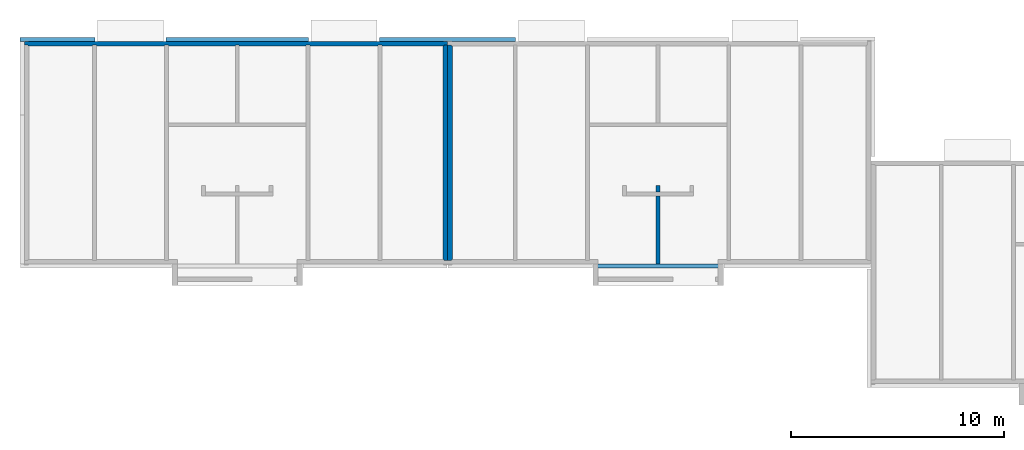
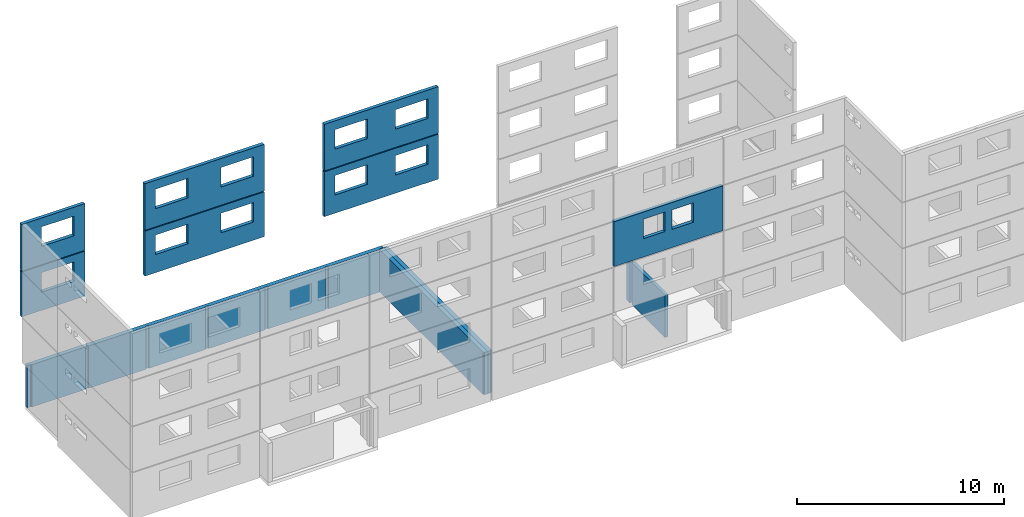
# One storey, part 10 of 15: 12 walls, 12 openings.
"""IFC2X3 building model written with IfcOpenShell, lengths in metres."""

import ifcopenshell
import ifcopenshell.guid

model = None  # the IFC model being written
_history = None  # IfcOwnerHistory: only IFC2X3 demands one
_inside = {}  # id of a spatial element -> (the spatial element, [elements in it])
_under = {}  # id of a project, library or spatial element -> (it, [spatial elements below it])
_declared = {}  # id of a project -> (the project, [libraries it declares])
_typed = {}  # id of a type object -> (the type object, [elements of that type])
_made_of = {}  # id of a material, layer set ... -> (it, [elements and type objects made of it])


def new_model(schema):
    """Start an empty IFC model of exactly this schema.

    Asked for "IFC4X3", IfcOpenShell would pick the latest addendum, in which some entities
    have other attributes; the version numbers below select the first issue.
    IFC2X3 requires an IfcOwnerHistory on every rooted entity: one is made here for all.
    """
    global model, _history
    if schema == "IFC4X3":
        model = ifcopenshell.file(schema_version=(4, 3, 0, 0))
    else:
        model = ifcopenshell.file(schema=schema)
    _inside.clear()
    _under.clear()
    _declared.clear()
    _typed.clear()
    _made_of.clear()
    _history = None
    if model.schema == "IFC2X3":
        org = make("IfcOrganization", Name="unknown")
        user = make(
            "IfcPersonAndOrganization",
            ThePerson=make("IfcPerson", FamilyName="unknown"),
            TheOrganization=org,
        )
        app = make(
            "IfcApplication",
            ApplicationDeveloper=org,
            Version="unknown",
            ApplicationFullName="unknown",
            ApplicationIdentifier="unknown",
        )
        _history = make(
            "IfcOwnerHistory",
            OwningUser=user,
            OwningApplication=app,
            ChangeAction="ADDED",
            CreationDate=0,
        )
    return model


def make(cls, **values):
    """One entity of the class cls with the attributes given. An attribute that is None is left unset."""
    return model.create_entity(
        cls, **{name: value for name, value in values.items() if value is not None}
    )


def rooted(cls, **values):
    """An entity with a GlobalId (a new one), such as an element, a storey or a relation."""
    return make(cls, GlobalId=ifcopenshell.guid.new(), OwnerHistory=_history, **values)


def si_unit(unit_type, name, prefix=None):
    """IfcSIUnit, for example si_unit("LENGTHUNIT", "METRE", prefix="MILLI")."""
    return make("IfcSIUnit", UnitType=unit_type, Prefix=prefix, Name=name)


def assignment(units):
    """IfcUnitAssignment: the units of a project."""
    return None if units is None else make("IfcUnitAssignment", Units=units)


def point(xyz):
    """IfcCartesianPoint."""
    return None if xyz is None else make("IfcCartesianPoint", Coordinates=xyz)


def direction(xyz):
    """IfcDirection."""
    return None if xyz is None else make("IfcDirection", DirectionRatios=xyz)


def frame(location, z_axis=None, x_axis=None):
    """IfcAxis2Placement3D, a coordinate frame: its origin and axes. An axis left out is left unset."""
    return make(
        "IfcAxis2Placement3D",
        Location=point(location),
        Axis=direction(z_axis),
        RefDirection=direction(x_axis),
    )


def origin():
    """The frame at (0, 0, 0) with its axes left unset."""
    return frame((0.0, 0.0, 0.0))


def place(relative_to, where):
    """IfcLocalPlacement: puts the frame where relative to a parent placement (None: the world)."""
    return make(
        "IfcLocalPlacement", PlacementRelTo=relative_to, RelativePlacement=where
    )


def context(
    kind, dimensions, precision=None, world=None, true_north=None, identifier=None
):
    """IfcGeometricRepresentationContext, for example the 3D "Model" context."""
    return make(
        "IfcGeometricRepresentationContext",
        ContextIdentifier=identifier,
        ContextType=kind,
        CoordinateSpaceDimension=dimensions,
        Precision=precision,
        WorldCoordinateSystem=world,
        TrueNorth=true_north,
    )


def project(units=None, contexts=None):
    """IfcProject with its units and contexts."""
    return rooted(
        "IfcProject",
        Name="project",
        RepresentationContexts=contexts,
        UnitsInContext=assignment(units),
    )


def spatial(cls, under=None, at=None, **own):
    """A site, building, storey or space (cls), placed at a placement, below another one or the project."""
    s = rooted(cls, ObjectPlacement=at, **own)
    if under is not None:
        _under.setdefault(under.id(), (under, []))[1].append(s)
    return s


def faces_of(points, faces, orient=None, outer=None):
    """IfcFace entities. A face is a list of loops; a loop is a list of indices into points, from 0.

    orient and outer hold one flag for each loop. By default every Orientation is true, the
    first loop of a face is its IfcFaceOuterBound and the others are IfcFaceBound.
    """
    made = []
    for i, loops in enumerate(faces):
        bounds = []
        for j, loop in enumerate(loops):
            is_outer = j == 0 if outer is None else outer[i][j]
            bounds.append(
                make(
                    "IfcFaceOuterBound" if is_outer else "IfcFaceBound",
                    Bound=make("IfcPolyLoop", Polygon=[points[k] for k in loop]),
                    Orientation=True if orient is None else orient[i][j],
                )
            )
        made.append(make("IfcFace", Bounds=bounds))
    return made


def faceted_brep(points, faces, orient=None, outer=None, voids=None):
    """IfcFacetedBrep: a solid bounded by flat faces; with voids (closed shells), ...WithVoids."""
    shared = [point(p) for p in points]
    hull = make("IfcClosedShell", CfsFaces=faces_of(shared, faces, orient, outer))
    if voids is None:
        return make("IfcFacetedBrep", Outer=hull)
    return make(
        "IfcFacetedBrepWithVoids",
        Outer=hull,
        Voids=[
            make(cls, CfsFaces=faces_of(shared, fs, o, b)) for cls, fs, o, b in voids
        ],
    )


def shape(context_of_items, identifier, shape_type, items):
    """IfcShapeRepresentation: the items that make up one representation, for example the "Body"."""
    return make(
        "IfcShapeRepresentation",
        ContextOfItems=context_of_items,
        RepresentationIdentifier=identifier,
        RepresentationType=shape_type,
        Items=items,
    )


def made_of(thing, what):
    """Note that an element or type object is made of a material, layer set ...; save() writes the relation."""
    if what is not None:
        _made_of.setdefault(what.id(), (what, []))[1].append(thing)
    return thing


def element(
    cls,
    number,
    at=None,
    inside=None,
    cuts=None,
    type_object=None,
    material=None,
    context=None,
    identifier="Body",
    shape_type=None,
    held_by="IfcProductDefinitionShape",
    body=None,
    shapes=None,
    **own,
):
    """One element of the class cls, such as IfcWall. Its Tag is "e" and its number.

    at: its placement. inside: the storey or other place that contains it. cuts: it is an
    opening in that element (IfcRelVoidsElement). A single representation is given by context,
    identifier, shape_type and body (its items); several are given by shapes. held_by: the class
    of the entity that holds the representations. save() writes the other relations.
    """
    e = rooted(cls, Tag="e%d" % number, ObjectPlacement=at, **own)
    if body is not None:
        shapes = [shape(context, identifier, shape_type, body)]
    if shapes is not None:
        e.Representation = make(held_by, Representations=shapes)
    if inside is not None:
        _inside.setdefault(inside.id(), (inside, []))[1].append(e)
    if cuts is not None:
        rooted(
            "IfcRelVoidsElement", RelatingBuildingElement=cuts, RelatedOpeningElement=e
        )
    if type_object is not None:
        _typed.setdefault(type_object.id(), (type_object, []))[1].append(e)
    return made_of(e, material)


def aggregate(whole, parts):
    """IfcRelAggregates: a whole, such as a stair, and the parts it consists of."""
    return rooted("IfcRelAggregates", RelatingObject=whole, RelatedObjects=parts)


def save(model, path):
    """Write the relations noted so far, then the file.

    IfcRelAggregates (storeys below a building ...), IfcRelContainedInSpatialStructure (elements
    in a storey), IfcRelDefinesByType, IfcRelAssociatesMaterial and IfcRelDeclares: one each for
    every whole, place, type object, material and project.
    """
    for whole, parts in _under.values():
        aggregate(whole, parts)
    for where, things in _inside.values():
        rooted(
            "IfcRelContainedInSpatialStructure",
            RelatedElements=things,
            RelatingStructure=where,
        )
    for kind, things in _typed.values():
        rooted("IfcRelDefinesByType", RelatedObjects=things, RelatingType=kind)
    for what, things in _made_of.values():
        rooted("IfcRelAssociatesMaterial", RelatedObjects=things, RelatingMaterial=what)
    for by, libraries in _declared.values():
        rooted("IfcRelDeclares", RelatingContext=by, RelatedDefinitions=libraries)
    model.write(path)


model = new_model("IFC2X3")

# Units and contexts
model_context = context("Model", 3, precision=1e-06, world=origin())
ifc_project = project(units=[si_unit("LENGTHUNIT", "METRE"), si_unit("PLANEANGLEUNIT", "RADIAN")], contexts=[model_context])

# Site, building, storey
site = spatial("IfcSite", under=ifc_project, CompositionType="ELEMENT")
building = spatial("IfcBuilding", under=site, CompositionType="ELEMENT")
storey = spatial("IfcBuildingStorey", under=building, Name="rdc", CompositionType="ELEMENT", Elevation=0.0)

# Wall, openings
placement = place(None, origin())
wall_1_placement = place(placement, frame((23.03540137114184, 10.657077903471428, 8.025000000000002), z_axis=(0.0, 0.0, 1.0), x_axis=(-1.0, 0.0, 0.0)))
wall_1 = element("IfcWall", 1, at=wall_1_placement, inside=storey, context=model_context, shape_type="Brep", body=[
    faceted_brep([(0.0, 0.0, 2.749999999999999), (0.0, 0.187, 2.749999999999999), (0.0, 0.187, 0.0), (0.0, 0.0, 0.0), (0.0, 0.187, 2.749999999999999), (6.370802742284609, 0.187, 2.749999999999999), (6.370802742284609, 0.187, 0.0), (0.0, 0.187, 0.0), (6.370802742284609, 0.187, 2.749999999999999), (6.370802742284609, 0.0, 2.749999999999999), (6.370802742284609, 0.0, 0.0), (6.370802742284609, 0.187, 0.0), (6.370802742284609, 0.0, 2.749999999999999), (0.0, 0.0, 2.749999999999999), (0.0, 0.0, 0.0), (6.370802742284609, 0.0, 0.0), (0.0, 0.0, 2.749999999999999), (6.370802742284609, 0.0, 2.749999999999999), (6.370802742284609, 0.187, 2.749999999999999), (0.0, 0.187, 2.749999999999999), (0.0, 0.0, 0.0), (0.0, 0.187, 0.0), (6.370802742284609, 0.187, 0.0), (6.370802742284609, 0.0, 0.0)], [[[0, 1, 2, 3]], [[4, 5, 6, 7]], [[8, 9, 10, 11]], [[12, 13, 14, 15]], [[16, 17, 18, 19]], [[20, 21, 22, 23]]]),
])
opening_1_placement = place(placement, frame((22.43540137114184, 10.657077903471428, 9.100000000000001), z_axis=(0.0, 0.0, 1.0), x_axis=(-1.0, 0.0, 0.0)))
element("IfcOpeningElement", 2, at=opening_1_placement, cuts=wall_1, Name="Opening", context=model_context, shape_type="Brep", body=[
    faceted_brep([(0.0, 0.187, 0.0), (1.8, 0.187, 0.0), (1.8, 0.0, 0.0), (0.0, 0.0, 0.0), (1.8, 0.0, 1.15), (1.8, 0.187, 1.15), (0.0, 0.187, 1.15), (0.0, 0.0, 1.15), (0.0, 0.187, 0.0), (0.0, 0.0, 0.0), (0.0, 0.0, 1.15), (0.0, 0.187, 1.15), (1.8, 0.187, 0.0), (0.0, 0.187, 0.0), (0.0, 0.187, 1.15), (1.8, 0.187, 1.15), (1.8, 0.0, 0.0), (1.8, 0.187, 0.0), (1.8, 0.187, 1.15), (1.8, 0.0, 1.15), (0.0, 0.0, 0.0), (1.8, 0.0, 0.0), (1.8, 0.0, 1.15), (0.0, 0.0, 1.15)], [[[0, 1, 2, 3]], [[4, 5, 6, 7]], [[8, 9, 10, 11]], [[12, 13, 14, 15]], [[16, 17, 18, 19]], [[20, 21, 22, 23]]]),
])
opening_2_placement = place(placement, frame((19.065401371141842, 10.657077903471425, 9.100000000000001), z_axis=(0.0, 0.0, 1.0), x_axis=(-1.0, 0.0, 0.0)))
element("IfcOpeningElement", 3, at=opening_2_placement, cuts=wall_1, Name="Opening", context=model_context, shape_type="Brep", body=[
    faceted_brep([(0.0, 0.186999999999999, 0.0), (1.8, 0.186999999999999, 0.0), (1.8, 0.0, 0.0), (0.0, 0.0, 0.0), (1.8, 0.0, 1.15), (1.8, 0.186999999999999, 1.15), (0.0, 0.186999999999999, 1.15), (0.0, 0.0, 1.15), (0.0, 0.186999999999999, 0.0), (0.0, 0.0, 0.0), (0.0, 0.0, 1.15), (0.0, 0.186999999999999, 1.15), (1.8, 0.186999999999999, 0.0), (0.0, 0.186999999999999, 0.0), (0.0, 0.186999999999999, 1.15), (1.8, 0.186999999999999, 1.15), (1.8, 0.0, 0.0), (1.8, 0.186999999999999, 0.0), (1.8, 0.186999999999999, 1.15), (1.8, 0.0, 1.15), (0.0, 0.0, 0.0), (1.8, 0.0, 0.0), (1.8, 0.0, 1.15), (0.0, 0.0, 1.15)], [[[0, 1, 2, 3]], [[4, 5, 6, 7]], [[8, 9, 10, 11]], [[12, 13, 14, 15]], [[16, 17, 18, 19]], [[20, 21, 22, 23]]]),
])

wall_2_placement = place(placement, frame((13.314598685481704, 10.657077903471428, 8.025000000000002), z_axis=(0.0, 0.0, 1.0), x_axis=(-1.0, 0.0, 0.0)))
wall_2 = element("IfcWall", 4, at=wall_2_placement, inside=storey, context=model_context, shape_type="Brep", body=[
    faceted_brep([(0.0, 0.0, 2.749999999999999), (0.0, 0.187, 2.749999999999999), (0.0, 0.187, 0.0), (0.0, 0.0, 0.0), (0.0, 0.187, 2.749999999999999), (6.659598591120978, 0.187, 2.749999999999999), (6.659598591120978, 0.187, 0.0), (0.0, 0.187, 0.0), (6.659598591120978, 0.187, 2.749999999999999), (6.659598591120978, 0.0, 2.749999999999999), (6.659598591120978, 0.0, 0.0), (6.659598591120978, 0.187, 0.0), (6.659598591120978, 0.0, 2.749999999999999), (0.0, 0.0, 2.749999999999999), (0.0, 0.0, 0.0), (6.659598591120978, 0.0, 0.0), (0.0, 0.0, 2.749999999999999), (6.659598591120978, 0.0, 2.749999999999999), (6.659598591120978, 0.187, 2.749999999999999), (0.0, 0.187, 2.749999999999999), (0.0, 0.0, 0.0), (0.0, 0.187, 0.0), (6.659598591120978, 0.187, 0.0), (6.659598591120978, 0.0, 0.0)], [[[0, 1, 2, 3]], [[4, 5, 6, 7]], [[8, 9, 10, 11]], [[12, 13, 14, 15]], [[16, 17, 18, 19]], [[20, 21, 22, 23]]]),
])
opening_3_placement = place(placement, frame((9.054598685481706, 10.657077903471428, 9.100000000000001), z_axis=(0.0, 0.0, 1.0), x_axis=(-1.0, 0.0, 0.0)))
element("IfcOpeningElement", 5, at=opening_3_placement, cuts=wall_2, Name="Opening", context=model_context, shape_type="Brep", body=[
    faceted_brep([(0.0, 0.186999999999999, 0.0), (1.8, 0.186999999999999, 0.0), (1.8, 0.0, 0.0), (0.0, 0.0, 0.0), (1.8, 0.0, 1.15), (1.8, 0.186999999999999, 1.15), (0.0, 0.186999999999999, 1.15), (0.0, 0.0, 1.15), (0.0, 0.186999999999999, 0.0), (0.0, 0.0, 0.0), (0.0, 0.0, 1.15), (0.0, 0.186999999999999, 1.15), (1.8, 0.186999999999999, 0.0), (0.0, 0.186999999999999, 0.0), (0.0, 0.186999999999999, 1.15), (1.8, 0.186999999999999, 1.15), (1.8, 0.0, 0.0), (1.8, 0.186999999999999, 0.0), (1.8, 0.186999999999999, 1.15), (1.8, 0.0, 1.15), (0.0, 0.0, 0.0), (1.8, 0.0, 0.0), (1.8, 0.0, 1.15), (0.0, 0.0, 1.15)], [[[0, 1, 2, 3]], [[4, 5, 6, 7]], [[8, 9, 10, 11]], [[12, 13, 14, 15]], [[16, 17, 18, 19]], [[20, 21, 22, 23]]]),
])
opening_4_placement = place(placement, frame((12.714598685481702, 10.657077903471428, 9.100000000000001), z_axis=(0.0, 0.0, 1.0), x_axis=(-1.0, 0.0, 0.0)))
element("IfcOpeningElement", 6, at=opening_4_placement, cuts=wall_2, Name="Opening", context=model_context, shape_type="Brep", body=[
    faceted_brep([(0.0, 0.187, 0.0), (1.8, 0.187, 0.0), (1.8, 0.0, 0.0), (0.0, 0.0, 0.0), (1.8, 0.0, 1.15), (1.8, 0.187, 1.15), (0.0, 0.187, 1.15), (0.0, 0.0, 1.15), (0.0, 0.187, 0.0), (0.0, 0.0, 0.0), (0.0, 0.0, 1.15), (0.0, 0.187, 1.15), (1.8, 0.187, 0.0), (0.0, 0.187, 0.0), (0.0, 0.187, 1.15), (1.8, 0.187, 1.15), (1.8, 0.0, 0.0), (1.8, 0.187, 0.0), (1.8, 0.187, 1.15), (1.8, 0.0, 1.15), (0.0, 0.0, 0.0), (1.8, 0.0, 0.0), (1.8, 0.0, 1.15), (0.0, 0.0, 1.15)], [[[0, 1, 2, 3]], [[4, 5, 6, 7]], [[8, 9, 10, 11]], [[12, 13, 14, 15]], [[16, 17, 18, 19]], [[20, 21, 22, 23]]]),
])

# Wall, opening
wall_3_placement = place(placement, frame((3.305000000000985, 10.657078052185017, 8.025000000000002), z_axis=(0.0, 0.0, 1.0), x_axis=(-1.0, 0.0, 0.0)))
wall_3 = element("IfcWall", 7, at=wall_3_placement, inside=storey, context=model_context, shape_type="Brep", body=[
    faceted_brep([(0.0, 0.0, 2.749999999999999), (0.0, 0.187, 2.749999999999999), (0.0, 0.187, 0.0), (0.0, 0.0, 0.0), (0.0, 0.187, 2.749999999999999), (3.505000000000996, 0.187, 2.749999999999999), (3.505000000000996, 0.187, 0.0), (0.0, 0.187, 0.0), (3.505000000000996, 0.187, 2.749999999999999), (3.505000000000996, 0.0, 2.749999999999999), (3.505000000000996, 0.0, 0.0), (3.505000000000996, 0.187, 0.0), (3.505000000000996, 0.0, 2.749999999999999), (0.0, 0.0, 2.749999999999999), (0.0, 0.0, 0.0), (3.505000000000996, 0.0, 0.0), (0.0, 0.0, 2.749999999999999), (3.505000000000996, 0.0, 2.749999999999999), (3.505000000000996, 0.187, 2.749999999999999), (0.0, 0.187, 2.749999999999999), (0.0, 0.0, 0.0), (0.0, 0.187, 0.0), (3.505000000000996, 0.187, 0.0), (3.505000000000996, 0.0, 0.0)], [[[0, 1, 2, 3]], [[4, 5, 6, 7]], [[8, 9, 10, 11]], [[12, 13, 14, 15]], [[16, 17, 18, 19]], [[20, 21, 22, 23]]]),
])
opening_5_placement = place(placement, frame((2.705000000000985, 10.657078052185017, 9.100000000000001), z_axis=(0.0, 0.0, 1.0), x_axis=(-1.0, 0.0, 0.0)))
element("IfcOpeningElement", 8, at=opening_5_placement, cuts=wall_3, Name="Opening", context=model_context, shape_type="Brep", body=[
    faceted_brep([(0.0, 0.187, 0.0), (1.8, 0.187, 0.0), (1.8, 0.0, 0.0), (0.0, 0.0, 0.0), (1.8, 0.0, 1.15), (1.8, 0.187, 1.15), (0.0, 0.187, 1.15), (0.0, 0.0, 1.15), (0.0, 0.187, 0.0), (0.0, 0.0, 0.0), (0.0, 0.0, 1.15), (0.0, 0.187, 1.15), (1.8, 0.187, 0.0), (0.0, 0.187, 0.0), (0.0, 0.187, 1.15), (1.8, 0.187, 1.15), (1.8, 0.0, 0.0), (1.8, 0.187, 0.0), (1.8, 0.187, 1.15), (1.8, 0.0, 1.15), (0.0, 0.0, 0.0), (1.8, 0.0, 0.0), (1.8, 0.0, 1.15), (0.0, 0.0, 1.15)], [[[0, 1, 2, 3]], [[4, 5, 6, 7]], [[8, 9, 10, 11]], [[12, 13, 14, 15]], [[16, 17, 18, 19]], [[20, 21, 22, 23]]]),
])

# Wall, openings
wall_4_placement = place(placement, frame((23.03540137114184, 10.657077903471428, 5.325000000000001), z_axis=(0.0, 0.0, 1.0), x_axis=(-1.0, 0.0, 0.0)))
wall_4 = element("IfcWall", 9, at=wall_4_placement, inside=storey, context=model_context, shape_type="Brep", body=[
    faceted_brep([(0.0, 0.0, 2.65), (0.0, 0.187, 2.65), (0.0, 0.187, 0.0), (0.0, 0.0, 0.0), (0.0, 0.187, 2.65), (6.370802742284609, 0.187, 2.65), (6.370802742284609, 0.187, 0.0), (0.0, 0.187, 0.0), (6.370802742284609, 0.187, 2.65), (6.370802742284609, 0.0, 2.65), (6.370802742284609, 0.0, 0.0), (6.370802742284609, 0.187, 0.0), (6.370802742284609, 0.0, 2.65), (0.0, 0.0, 2.65), (0.0, 0.0, 0.0), (6.370802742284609, 0.0, 0.0), (0.0, 0.0, 2.65), (6.370802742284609, 0.0, 2.65), (6.370802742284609, 0.187, 2.65), (0.0, 0.187, 2.65), (0.0, 0.0, 0.0), (0.0, 0.187, 0.0), (6.370802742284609, 0.187, 0.0), (6.370802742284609, 0.0, 0.0)], [[[0, 1, 2, 3]], [[4, 5, 6, 7]], [[8, 9, 10, 11]], [[12, 13, 14, 15]], [[16, 17, 18, 19]], [[20, 21, 22, 23]]]),
])
opening_6_placement = place(placement, frame((19.065401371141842, 10.657077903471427, 6.4), z_axis=(0.0, 0.0, 1.0), x_axis=(-1.0, 0.0, 0.0)))
element("IfcOpeningElement", 10, at=opening_6_placement, cuts=wall_4, Name="Opening", context=model_context, shape_type="Brep", body=[
    faceted_brep([(0.0, 0.186999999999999, 0.0), (1.8, 0.186999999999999, 0.0), (1.8, 0.0, 0.0), (0.0, 0.0, 0.0), (1.8, 0.0, 1.15), (1.8, 0.186999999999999, 1.15), (0.0, 0.186999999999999, 1.15), (0.0, 0.0, 1.15), (0.0, 0.186999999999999, 0.0), (0.0, 0.0, 0.0), (0.0, 0.0, 1.15), (0.0, 0.186999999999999, 1.15), (1.8, 0.186999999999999, 0.0), (0.0, 0.186999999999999, 0.0), (0.0, 0.186999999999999, 1.15), (1.8, 0.186999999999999, 1.15), (1.8, 0.0, 0.0), (1.8, 0.186999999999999, 0.0), (1.8, 0.186999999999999, 1.15), (1.8, 0.0, 1.15), (0.0, 0.0, 0.0), (1.8, 0.0, 0.0), (1.8, 0.0, 1.15), (0.0, 0.0, 1.15)], [[[0, 1, 2, 3]], [[4, 5, 6, 7]], [[8, 9, 10, 11]], [[12, 13, 14, 15]], [[16, 17, 18, 19]], [[20, 21, 22, 23]]]),
])
opening_7_placement = place(placement, frame((22.43540137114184, 10.657077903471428, 6.4), z_axis=(0.0, 0.0, 1.0), x_axis=(-1.0, 0.0, 0.0)))
element("IfcOpeningElement", 11, at=opening_7_placement, cuts=wall_4, Name="Opening", context=model_context, shape_type="Brep", body=[
    faceted_brep([(0.0, 0.187, 0.0), (1.8, 0.187, 0.0), (1.8, 0.0, 0.0), (0.0, 0.0, 0.0), (1.8, 0.0, 1.15), (1.8, 0.187, 1.15), (0.0, 0.187, 1.15), (0.0, 0.0, 1.15), (0.0, 0.187, 0.0), (0.0, 0.0, 0.0), (0.0, 0.0, 1.15), (0.0, 0.187, 1.15), (1.8, 0.187, 0.0), (0.0, 0.187, 0.0), (0.0, 0.187, 1.15), (1.8, 0.187, 1.15), (1.8, 0.0, 0.0), (1.8, 0.187, 0.0), (1.8, 0.187, 1.15), (1.8, 0.0, 1.15), (0.0, 0.0, 0.0), (1.8, 0.0, 0.0), (1.8, 0.0, 1.15), (0.0, 0.0, 1.15)], [[[0, 1, 2, 3]], [[4, 5, 6, 7]], [[8, 9, 10, 11]], [[12, 13, 14, 15]], [[16, 17, 18, 19]], [[20, 21, 22, 23]]]),
])

wall_5_placement = place(placement, frame((13.314598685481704, 10.657077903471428, 5.325000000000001), z_axis=(0.0, 0.0, 1.0), x_axis=(-1.0, 0.0, 0.0)))
wall_5 = element("IfcWall", 12, at=wall_5_placement, inside=storey, context=model_context, shape_type="Brep", body=[
    faceted_brep([(0.0, 0.0, 2.65), (0.0, 0.187, 2.65), (0.0, 0.187, 0.0), (0.0, 0.0, 0.0), (0.0, 0.187, 2.65), (6.659598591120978, 0.187, 2.65), (6.659598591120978, 0.187, 0.0), (0.0, 0.187, 0.0), (6.659598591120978, 0.187, 2.65), (6.659598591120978, 0.0, 2.65), (6.659598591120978, 0.0, 0.0), (6.659598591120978, 0.187, 0.0), (6.659598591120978, 0.0, 2.65), (0.0, 0.0, 2.65), (0.0, 0.0, 0.0), (6.659598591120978, 0.0, 0.0), (0.0, 0.0, 2.65), (6.659598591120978, 0.0, 2.65), (6.659598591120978, 0.187, 2.65), (0.0, 0.187, 2.65), (0.0, 0.0, 0.0), (0.0, 0.187, 0.0), (6.659598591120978, 0.187, 0.0), (6.659598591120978, 0.0, 0.0)], [[[0, 1, 2, 3]], [[4, 5, 6, 7]], [[8, 9, 10, 11]], [[12, 13, 14, 15]], [[16, 17, 18, 19]], [[20, 21, 22, 23]]]),
])
opening_8_placement = place(placement, frame((12.714598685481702, 10.657077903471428, 6.4), z_axis=(0.0, 0.0, 1.0), x_axis=(-1.0, 0.0, 0.0)))
element("IfcOpeningElement", 13, at=opening_8_placement, cuts=wall_5, Name="Opening", context=model_context, shape_type="Brep", body=[
    faceted_brep([(0.0, 0.187, 0.0), (1.8, 0.187, 0.0), (1.8, 0.0, 0.0), (0.0, 0.0, 0.0), (1.8, 0.0, 1.15), (1.8, 0.187, 1.15), (0.0, 0.187, 1.15), (0.0, 0.0, 1.15), (0.0, 0.187, 0.0), (0.0, 0.0, 0.0), (0.0, 0.0, 1.15), (0.0, 0.187, 1.15), (1.8, 0.187, 0.0), (0.0, 0.187, 0.0), (0.0, 0.187, 1.15), (1.8, 0.187, 1.15), (1.8, 0.0, 0.0), (1.8, 0.187, 0.0), (1.8, 0.187, 1.15), (1.8, 0.0, 1.15), (0.0, 0.0, 0.0), (1.8, 0.0, 0.0), (1.8, 0.0, 1.15), (0.0, 0.0, 1.15)], [[[0, 1, 2, 3]], [[4, 5, 6, 7]], [[8, 9, 10, 11]], [[12, 13, 14, 15]], [[16, 17, 18, 19]], [[20, 21, 22, 23]]]),
])
opening_9_placement = place(placement, frame((9.054598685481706, 10.657077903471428, 6.4), z_axis=(0.0, 0.0, 1.0), x_axis=(-1.0, 0.0, 0.0)))
element("IfcOpeningElement", 14, at=opening_9_placement, cuts=wall_5, Name="Opening", context=model_context, shape_type="Brep", body=[
    faceted_brep([(0.0, 0.186999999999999, 0.0), (1.8, 0.186999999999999, 0.0), (1.8, 0.0, 0.0), (0.0, 0.0, 0.0), (1.8, 0.0, 1.15), (1.8, 0.186999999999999, 1.15), (0.0, 0.186999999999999, 1.15), (0.0, 0.0, 1.15), (0.0, 0.186999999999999, 0.0), (0.0, 0.0, 0.0), (0.0, 0.0, 1.15), (0.0, 0.186999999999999, 1.15), (1.8, 0.186999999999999, 0.0), (0.0, 0.186999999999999, 0.0), (0.0, 0.186999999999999, 1.15), (1.8, 0.186999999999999, 1.15), (1.8, 0.0, 0.0), (1.8, 0.186999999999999, 0.0), (1.8, 0.186999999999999, 1.15), (1.8, 0.0, 1.15), (0.0, 0.0, 0.0), (1.8, 0.0, 0.0), (1.8, 0.0, 1.15), (0.0, 0.0, 1.15)], [[[0, 1, 2, 3]], [[4, 5, 6, 7]], [[8, 9, 10, 11]], [[12, 13, 14, 15]], [[16, 17, 18, 19]], [[20, 21, 22, 23]]]),
])

# Wall, opening
wall_6_placement = place(placement, frame((3.305000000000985, 10.657078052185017, 5.325000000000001), z_axis=(0.0, 0.0, 1.0), x_axis=(-1.0, 0.0, 0.0)))
wall_6 = element("IfcWall", 15, at=wall_6_placement, inside=storey, context=model_context, shape_type="Brep", body=[
    faceted_brep([(0.0, 0.0, 2.65), (0.0, 0.187, 2.65), (0.0, 0.187, 0.0), (0.0, 0.0, 0.0), (0.0, 0.187, 2.65), (3.505000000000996, 0.187, 2.65), (3.505000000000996, 0.187, 0.0), (0.0, 0.187, 0.0), (3.505000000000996, 0.187, 2.65), (3.505000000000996, 0.0, 2.65), (3.505000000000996, 0.0, 0.0), (3.505000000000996, 0.187, 0.0), (3.505000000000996, 0.0, 2.65), (0.0, 0.0, 2.65), (0.0, 0.0, 0.0), (3.505000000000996, 0.0, 0.0), (0.0, 0.0, 2.65), (3.505000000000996, 0.0, 2.65), (3.505000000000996, 0.187, 2.65), (0.0, 0.187, 2.65), (0.0, 0.0, 0.0), (0.0, 0.187, 0.0), (3.505000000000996, 0.187, 0.0), (3.505000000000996, 0.0, 0.0)], [[[0, 1, 2, 3]], [[4, 5, 6, 7]], [[8, 9, 10, 11]], [[12, 13, 14, 15]], [[16, 17, 18, 19]], [[20, 21, 22, 23]]]),
])
opening_10_placement = place(placement, frame((2.705000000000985, 10.657078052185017, 6.4), z_axis=(0.0, 0.0, 1.0), x_axis=(-1.0, 0.0, 0.0)))
element("IfcOpeningElement", 16, at=opening_10_placement, cuts=wall_6, Name="Opening", context=model_context, shape_type="Brep", body=[
    faceted_brep([(0.0, 0.187, 0.0), (1.8, 0.187, 0.0), (1.8, 0.0, 0.0), (0.0, 0.0, 0.0), (1.8, 0.0, 1.15), (1.8, 0.187, 1.15), (0.0, 0.187, 1.15), (0.0, 0.0, 1.15), (0.0, 0.187, 0.0), (0.0, 0.0, 0.0), (0.0, 0.0, 1.15), (0.0, 0.187, 1.15), (1.8, 0.187, 0.0), (0.0, 0.187, 0.0), (0.0, 0.187, 1.15), (1.8, 0.187, 1.15), (1.8, 0.0, 0.0), (1.8, 0.187, 0.0), (1.8, 0.187, 1.15), (1.8, 0.0, 1.15), (0.0, 0.0, 0.0), (1.8, 0.0, 0.0), (1.8, 0.0, 1.15), (0.0, 0.0, 1.15)], [[[0, 1, 2, 3]], [[4, 5, 6, 7]], [[8, 9, 10, 11]], [[12, 13, 14, 15]], [[16, 17, 18, 19]], [[20, 21, 22, 23]]]),
])

# Walls
wall_7_placement = place(placement, frame((19.849999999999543, 10.290077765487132, 0.0), z_axis=(0.0, 0.0, 1.0), x_axis=(0.0, -1.0, 0.0)))
element("IfcWall", 17, at=wall_7_placement, inside=storey, context=model_context, shape_type="Brep", body=[
    faceted_brep([(0.04, 0.18, 2.5), (0.04, 0.22, 2.5), (0.04, 0.22, 0.0), (0.04, 0.18, 0.0), (0.04, 0.22, 2.5), (0.05, 0.22, 2.5), (0.05, 0.22, 0.0), (0.04, 0.22, 0.0), (0.05, 0.22, 2.5), (0.05, 0.23, 2.5), (0.05, 0.23, 0.0), (0.05, 0.22, 0.0), (0.05, 0.23, 2.5), (10.03991497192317, 0.23, 2.5), (10.03991497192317, 0.23, 0.0), (0.05, 0.23, 0.0), (10.03991497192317, 0.23, 2.5), (10.03991497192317, 0.22, 2.5), (10.03991497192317, 0.22, 0.0), (10.03991497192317, 0.23, 0.0), (10.03991497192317, 0.22, 2.5), (10.04991497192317, 0.22, 2.5), (10.04991497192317, 0.22, 0.0), (10.03991497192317, 0.22, 0.0), (10.04991497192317, 0.22, 2.5), (10.04991497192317, 0.18, 2.5), (10.04991497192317, 0.18, 0.0), (10.04991497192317, 0.22, 0.0), (10.04991497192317, 0.18, 2.5), (10.08991497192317, 0.18, 2.5), (10.08991497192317, 0.18, 0.0), (10.04991497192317, 0.18, 0.0), (10.08991497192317, 0.18, 2.5), (10.08991497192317, 0.0, 2.5), (10.08991497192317, 0.0, 0.0), (10.08991497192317, 0.18, 0.0), (10.08991497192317, 0.0, 2.5), (0.0, 0.0, 2.5), (0.0, 0.0, 0.0), (10.08991497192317, 0.0, 0.0), (0.0, 0.0, 2.5), (0.0, 0.18, 2.5), (0.0, 0.18, 0.0), (0.0, 0.0, 0.0), (0.0, 0.18, 2.5), (0.04, 0.18, 2.5), (0.04, 0.18, 0.0), (0.0, 0.18, 0.0), (0.04, 0.18, 2.5), (0.0, 0.18, 2.5), (0.0, 0.0, 2.5), (10.08991497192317, 0.0, 2.5), (10.08991497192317, 0.18, 2.5), (10.04991497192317, 0.18, 2.5), (10.04991497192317, 0.22, 2.5), (10.03991497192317, 0.22, 2.5), (10.03991497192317, 0.23, 2.5), (0.05, 0.23, 2.5), (0.05, 0.22, 2.5), (0.04, 0.22, 2.5), (0.04, 0.18, 0.0), (0.04, 0.22, 0.0), (0.05, 0.22, 0.0), (0.05, 0.23, 0.0), (10.03991497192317, 0.23, 0.0), (10.03991497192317, 0.22, 0.0), (10.04991497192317, 0.22, 0.0), (10.04991497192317, 0.18, 0.0), (10.08991497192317, 0.18, 0.0), (10.08991497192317, 0.0, 0.0), (0.0, 0.0, 0.0), (0.0, 0.18, 0.0)], [[[0, 1, 2, 3]], [[4, 5, 6, 7]], [[8, 9, 10, 11]], [[12, 13, 14, 15]], [[16, 17, 18, 19]], [[20, 21, 22, 23]], [[24, 25, 26, 27]], [[28, 29, 30, 31]], [[32, 33, 34, 35]], [[36, 37, 38, 39]], [[40, 41, 42, 43]], [[44, 45, 46, 47]], [[48, 49, 50, 51, 52, 53, 54, 55, 56, 57, 58, 59]], [[60, 61, 62, 63, 64, 65, 66, 67, 68, 69, 70, 71]]]),
])
wall_8_placement = place(placement, frame((29.80499999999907, 0.020038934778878, 0.0), z_axis=(0.0, 0.0, 1.0), x_axis=(0.0, 1.0, 0.0)))
element("IfcWall", 18, at=wall_8_placement, inside=storey, context=model_context, shape_type="Brep", body=[
    faceted_brep([(3.700038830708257, 0.18, 2.5), (3.700038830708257, 0.0, 2.5), (3.700038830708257, 0.0, 0.0), (3.700038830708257, 0.18, 0.0), (3.700038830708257, 0.0, 2.5), (3.380038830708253, 0.0, 2.5), (3.380038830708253, 0.0, 0.0), (3.700038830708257, 0.0, 0.0), (3.380038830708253, 0.0, 2.5), (3.380038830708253, 0.18, 2.5), (3.380038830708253, 0.18, 0.0), (3.380038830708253, 0.0, 0.0), (3.380038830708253, 0.18, 2.5), (3.700038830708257, 0.18, 2.5), (3.700038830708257, 0.18, 0.0), (3.380038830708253, 0.18, 0.0), (3.700038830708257, 0.18, 2.5), (3.380038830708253, 0.18, 2.5), (3.380038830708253, 0.0, 2.5), (3.700038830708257, 0.0, 2.5), (3.700038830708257, 0.18, 0.0), (3.700038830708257, 0.0, 0.0), (3.380038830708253, 0.0, 0.0), (3.380038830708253, 0.18, 0.0)], [[[0, 1, 2, 3]], [[4, 5, 6, 7]], [[8, 9, 10, 11]], [[12, 13, 14, 15]], [[16, 17, 18, 19]], [[20, 21, 22, 23]]]),
])

# Wall, openings
wall_9_placement = place(placement, frame((26.680000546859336, -0.16683720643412, 5.325000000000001), z_axis=(0.0, 0.0, 1.0), x_axis=(1.0, 0.0, 0.0)))
wall_9 = element("IfcWall", 19, at=wall_9_placement, inside=storey, Name="rdc2", context=model_context, shape_type="Brep", body=[
    faceted_brep([(0.0, 0.0, 2.65), (0.0, 0.187, 2.65), (0.0, 0.187, 0.0), (0.0, 0.0, 0.0), (0.0, 0.187, 2.65), (6.070000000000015, 0.187, 2.65), (6.070000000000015, 0.187, 0.0), (0.0, 0.187, 0.0), (6.070000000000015, 0.187, 2.65), (6.070000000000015, 0.0, 2.65), (6.070000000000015, 0.0, 0.0), (6.070000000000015, 0.187, 0.0), (6.070000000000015, 0.0, 2.65), (0.0, 0.0, 2.65), (0.0, 0.0, 0.0), (6.070000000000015, 0.0, 0.0), (0.0, 0.0, 2.65), (6.070000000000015, 0.0, 2.65), (6.070000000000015, 0.187, 2.65), (0.0, 0.187, 2.65), (0.0, 0.0, 0.0), (0.0, 0.187, 0.0), (6.070000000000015, 0.187, 0.0), (6.070000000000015, 0.0, 0.0)], [[[0, 1, 2, 3]], [[4, 5, 6, 7]], [[8, 9, 10, 11]], [[12, 13, 14, 15]], [[16, 17, 18, 19]], [[20, 21, 22, 23]]]),
])
opening_11_placement = place(placement, frame((28.330000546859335, -0.16683720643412, 6.400000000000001), z_axis=(0.0, 0.0, 1.0), x_axis=(1.0, 0.0, 0.0)))
element("IfcOpeningElement", 20, at=opening_11_placement, cuts=wall_9, Name="Opening", context=model_context, shape_type="Brep", body=[
    faceted_brep([(0.0, 0.187, 0.0), (1.2, 0.187, 0.0), (1.2, 0.0, 0.0), (0.0, 0.0, 0.0), (1.2, 0.0, 1.15), (1.2, 0.187, 1.15), (0.0, 0.187, 1.15), (0.0, 0.0, 1.15), (0.0, 0.187, 0.0), (0.0, 0.0, 0.0), (0.0, 0.0, 1.15), (0.0, 0.187, 1.15), (1.2, 0.187, 0.0), (0.0, 0.187, 0.0), (0.0, 0.187, 1.15), (1.2, 0.187, 1.15), (1.2, 0.0, 0.0), (1.2, 0.187, 0.0), (1.2, 0.187, 1.15), (1.2, 0.0, 1.15), (0.0, 0.0, 0.0), (1.2, 0.0, 0.0), (1.2, 0.0, 1.15), (0.0, 0.0, 1.15)], [[[0, 1, 2, 3]], [[4, 5, 6, 7]], [[8, 9, 10, 11]], [[12, 13, 14, 15]], [[16, 17, 18, 19]], [[20, 21, 22, 23]]]),
])
opening_12_placement = place(placement, frame((29.90000054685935, -0.16683720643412, 6.400000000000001), z_axis=(0.0, 0.0, 1.0), x_axis=(1.0, 0.0, 0.0)))
element("IfcOpeningElement", 21, at=opening_12_placement, cuts=wall_9, Name="Opening", context=model_context, shape_type="Brep", body=[
    faceted_brep([(0.0, 0.187, 0.0), (1.2, 0.187, 0.0), (1.2, 0.0, 0.0), (0.0, 0.0, 0.0), (1.2, 0.0, 1.15), (1.2, 0.187, 1.15), (0.0, 0.187, 1.15), (0.0, 0.0, 1.15), (0.0, 0.187, 0.0), (0.0, 0.0, 0.0), (0.0, 0.0, 1.15), (0.0, 0.187, 1.15), (1.2, 0.187, 0.0), (0.0, 0.187, 0.0), (0.0, 0.187, 1.15), (1.2, 0.187, 1.15), (1.2, 0.0, 0.0), (1.2, 0.187, 0.0), (1.2, 0.187, 1.15), (1.2, 0.0, 1.15), (0.0, 0.0, 0.0), (1.2, 0.0, 0.0), (1.2, 0.0, 1.15), (0.0, 0.0, 1.15)], [[[0, 1, 2, 3]], [[4, 5, 6, 7]], [[8, 9, 10, 11]], [[12, 13, 14, 15]], [[16, 17, 18, 19]], [[20, 21, 22, 23]]]),
])

# Walls
wall_10_placement = place(placement, frame((29.80499999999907, 0.020038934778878, 0.0), z_axis=(0.0, 0.0, 1.0), x_axis=(0.0, 1.0, 0.0)))
element("IfcWall", 22, at=wall_10_placement, inside=storey, context=model_context, shape_type="Brep", body=[
    faceted_brep([(3.200038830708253, 0.18, 2.5), (3.200038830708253, 0.0, 2.5), (3.200038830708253, 0.0, 0.0), (3.200038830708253, 0.18, 0.0), (3.200038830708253, 0.0, 2.5), (0.0, 0.0, 2.5), (0.0, 0.0, 0.0), (3.200038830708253, 0.0, 0.0), (0.0, 0.0, 2.5), (-7.16957565e-07, 0.18, 2.5), (-7.16957565e-07, 0.18, 0.0), (0.0, 0.0, 0.0), (-7.16957565e-07, 0.18, 2.5), (3.200038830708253, 0.18, 2.5), (3.200038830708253, 0.18, 0.0), (-7.16957565e-07, 0.18, 0.0), (3.200038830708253, 0.18, 2.5), (-7.16957565e-07, 0.18, 2.5), (0.0, 0.0, 2.5), (3.200038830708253, 0.0, 2.5), (3.200038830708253, 0.18, 0.0), (3.200038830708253, 0.0, 0.0), (0.0, 0.0, 0.0), (-7.16957565e-07, 0.18, 0.0)], [[[0, 1, 2, 3]], [[4, 5, 6, 7]], [[8, 9, 10, 11]], [[12, 13, 14, 15]], [[16, 17, 18, 19]], [[20, 21, 22, 23]]]),
])
wall_11_placement = place(placement, frame((19.849999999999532, 0.20016279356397, 0.0), z_axis=(0.0, 0.0, 1.0), x_axis=(0.0, 1.0, 0.0)))
element("IfcWall", 23, at=wall_11_placement, inside=storey, context=model_context, shape_type="Brep", body=[
    faceted_brep([(0.04, 0.18, 2.5), (0.04, 0.22, 2.5), (0.04, 0.22, 0.0), (0.04, 0.18, 0.0), (0.04, 0.22, 2.5), (0.05, 0.22, 2.5), (0.05, 0.22, 0.0), (0.04, 0.22, 0.0), (0.05, 0.22, 2.5), (0.05, 0.23, 2.5), (0.05, 0.23, 0.0), (0.05, 0.22, 0.0), (0.05, 0.23, 2.5), (10.03991497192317, 0.23, 2.5), (10.03991497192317, 0.23, 0.0), (0.05, 0.23, 0.0), (10.03991497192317, 0.23, 2.5), (10.03991497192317, 0.22, 2.5), (10.03991497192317, 0.22, 0.0), (10.03991497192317, 0.23, 0.0), (10.03991497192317, 0.22, 2.5), (10.04991497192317, 0.22, 2.5), (10.04991497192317, 0.22, 0.0), (10.03991497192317, 0.22, 0.0), (10.04991497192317, 0.22, 2.5), (10.04991497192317, 0.18, 2.5), (10.04991497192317, 0.18, 0.0), (10.04991497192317, 0.22, 0.0), (10.04991497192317, 0.18, 2.5), (10.08991497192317, 0.18, 2.5), (10.08991497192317, 0.18, 0.0), (10.04991497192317, 0.18, 0.0), (10.08991497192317, 0.18, 2.5), (10.08991497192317, 0.0, 2.5), (10.08991497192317, 0.0, 0.0), (10.08991497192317, 0.18, 0.0), (10.08991497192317, 0.0, 2.5), (0.0, 0.0, 2.5), (0.0, 0.0, 0.0), (10.08991497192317, 0.0, 0.0), (0.0, 0.0, 2.5), (0.0, 0.18, 2.5), (0.0, 0.18, 0.0), (0.0, 0.0, 0.0), (0.0, 0.18, 2.5), (0.04, 0.18, 2.5), (0.04, 0.18, 0.0), (0.0, 0.18, 0.0), (0.04, 0.18, 2.5), (0.0, 0.18, 2.5), (0.0, 0.0, 2.5), (10.08991497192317, 0.0, 2.5), (10.08991497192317, 0.18, 2.5), (10.04991497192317, 0.18, 2.5), (10.04991497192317, 0.22, 2.5), (10.03991497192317, 0.22, 2.5), (10.03991497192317, 0.23, 2.5), (0.05, 0.23, 2.5), (0.05, 0.22, 2.5), (0.04, 0.22, 2.5), (0.04, 0.18, 0.0), (0.04, 0.22, 0.0), (0.05, 0.22, 0.0), (0.05, 0.23, 0.0), (10.03991497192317, 0.23, 0.0), (10.03991497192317, 0.22, 0.0), (10.04991497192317, 0.22, 0.0), (10.04991497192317, 0.18, 0.0), (10.08991497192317, 0.18, 0.0), (10.08991497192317, 0.0, 0.0), (0.0, 0.0, 0.0), (0.0, 0.18, 0.0)], [[[0, 1, 2, 3]], [[4, 5, 6, 7]], [[8, 9, 10, 11]], [[12, 13, 14, 15]], [[16, 17, 18, 19]], [[20, 21, 22, 23]], [[24, 25, 26, 27]], [[28, 29, 30, 31]], [[32, 33, 34, 35]], [[36, 37, 38, 39]], [[40, 41, 42, 43]], [[44, 45, 46, 47]], [[48, 49, 50, 51, 52, 53, 54, 55, 56, 57, 58, 59]], [[60, 61, 62, 63, 64, 65, 66, 67, 68, 69, 70, 71]]]),
])
wall_12_placement = place(placement, frame((19.849999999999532, 10.47007776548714, 0.0), z_axis=(0.0, 0.0, 1.0), x_axis=(-1.0, 0.0, 0.0)))
element("IfcWall", 24, at=wall_12_placement, inside=storey, context=model_context, shape_type="Brep", body=[
    faceted_brep([(19.62999999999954, 0.23, 2.5), (19.62999999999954, 0.22, 2.5), (19.62999999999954, 0.22, 0.0), (19.62999999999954, 0.23, 0.0), (19.62999999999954, 0.22, 2.5), (19.669999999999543, 0.22, 2.5), (19.669999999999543, 0.22, 0.0), (19.62999999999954, 0.22, 0.0), (19.669999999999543, 0.22, 2.5), (19.669999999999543, 0.18, 2.5), (19.669999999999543, 0.18, 0.0), (19.669999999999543, 0.22, 0.0), (19.669999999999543, 0.18, 2.5), (19.849999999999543, 0.18, 2.5), (19.849999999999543, 0.18, 0.0), (19.669999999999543, 0.18, 0.0), (19.849999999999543, 0.18, 2.5), (19.849999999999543, 0.0, 2.5), (19.849999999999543, 0.0, 0.0), (19.849999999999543, 0.18, 0.0), (19.849999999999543, 0.0, 2.5), (0.0, 0.0, 2.5), (0.0, 0.0, 0.0), (19.849999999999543, 0.0, 0.0), (0.0, 0.0, 2.5), (0.0, 0.18, 2.5), (0.0, 0.18, 0.0), (0.0, 0.0, 0.0), (0.0, 0.18, 2.5), (0.18, 0.18, 2.5), (0.18, 0.18, 0.0), (0.0, 0.18, 0.0), (0.18, 0.18, 2.5), (0.18, 0.22, 2.5), (0.18, 0.22, 0.0), (0.18, 0.18, 0.0), (0.18, 0.22, 2.5), (0.22, 0.22, 2.5), (0.22, 0.22, 0.0), (0.18, 0.22, 0.0), (0.22, 0.22, 2.5), (0.22, 0.23, 2.5), (0.22, 0.23, 0.0), (0.22, 0.22, 0.0), (0.22, 0.23, 2.5), (3.079999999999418, 0.23, 2.5), (3.079999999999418, 0.23, 0.0), (0.22, 0.23, 0.0), (3.079999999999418, 0.23, 2.5), (3.079999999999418, 0.18, 2.5), (3.079999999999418, 0.18, 0.0), (3.079999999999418, 0.23, 0.0), (3.079999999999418, 0.18, 2.5), (3.259999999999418, 0.18, 2.5), (3.259999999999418, 0.18, 0.0), (3.079999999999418, 0.18, 0.0), (3.259999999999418, 0.18, 2.5), (3.259999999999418, 0.23, 2.5), (3.259999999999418, 0.23, 0.0), (3.259999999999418, 0.18, 0.0), (3.259999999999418, 0.23, 2.5), (6.46000006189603, 0.230000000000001, 2.5), (6.46000006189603, 0.230000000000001, 0.0), (3.259999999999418, 0.23, 0.0), (6.46000006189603, 0.230000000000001, 2.5), (6.46000006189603, 0.180000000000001, 2.5), (6.46000006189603, 0.180000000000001, 0.0), (6.46000006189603, 0.230000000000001, 0.0), (6.46000006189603, 0.180000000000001, 2.5), (6.640000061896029, 0.180000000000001, 2.5), (6.640000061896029, 0.180000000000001, 0.0), (6.46000006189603, 0.180000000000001, 0.0), (6.640000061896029, 0.180000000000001, 2.5), (6.640000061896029, 0.230000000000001, 2.5), (6.640000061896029, 0.230000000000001, 0.0), (6.640000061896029, 0.180000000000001, 0.0), (6.640000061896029, 0.230000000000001, 2.5), (9.774999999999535, 0.230000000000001, 2.5), (9.774999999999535, 0.230000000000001, 0.0), (6.640000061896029, 0.230000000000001, 0.0), (9.774999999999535, 0.230000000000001, 2.5), (9.774999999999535, 0.180000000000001, 2.5), (9.774999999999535, 0.180000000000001, 0.0), (9.774999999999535, 0.230000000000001, 0.0), (9.774999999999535, 0.180000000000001, 2.5), (9.954999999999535, 0.180000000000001, 2.5), (9.954999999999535, 0.180000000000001, 0.0), (9.774999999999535, 0.180000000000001, 0.0), (9.954999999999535, 0.180000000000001, 2.5), (9.954999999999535, 0.230000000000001, 2.5), (9.954999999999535, 0.230000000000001, 0.0), (9.954999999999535, 0.180000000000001, 0.0), (9.954999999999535, 0.230000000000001, 2.5), (13.08999999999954, 0.229999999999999, 2.5), (13.08999999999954, 0.229999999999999, 0.0), (9.954999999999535, 0.230000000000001, 0.0), (13.08999999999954, 0.229999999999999, 2.5), (13.08999999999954, 0.179999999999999, 2.5), (13.08999999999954, 0.179999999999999, 0.0), (13.08999999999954, 0.229999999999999, 0.0), (13.08999999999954, 0.179999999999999, 2.5), (13.26999999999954, 0.179999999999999, 2.5), (13.26999999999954, 0.179999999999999, 0.0), (13.08999999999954, 0.179999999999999, 0.0), (13.26999999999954, 0.179999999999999, 2.5), (13.26999999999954, 0.229999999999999, 2.5), (13.26999999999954, 0.229999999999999, 0.0), (13.26999999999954, 0.179999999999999, 0.0), (13.26999999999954, 0.229999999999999, 2.5), (16.46999999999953, 0.23, 2.5), (16.46999999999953, 0.23, 0.0), (13.26999999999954, 0.229999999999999, 0.0), (16.46999999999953, 0.23, 2.5), (16.46999999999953, 0.18, 2.5), (16.46999999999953, 0.18, 0.0), (16.46999999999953, 0.23, 0.0), (16.46999999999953, 0.18, 2.5), (16.64999999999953, 0.18, 2.5), (16.64999999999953, 0.18, 0.0), (16.46999999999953, 0.18, 0.0), (16.64999999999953, 0.18, 2.5), (16.64999999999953, 0.23, 2.5), (16.64999999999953, 0.23, 0.0), (16.64999999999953, 0.18, 0.0), (16.64999999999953, 0.23, 2.5), (19.62999999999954, 0.23, 2.5), (19.62999999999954, 0.23, 0.0), (16.64999999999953, 0.23, 0.0), (19.62999999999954, 0.23, 2.5), (16.64999999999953, 0.23, 2.5), (16.64999999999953, 0.18, 2.5), (16.46999999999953, 0.18, 2.5), (16.46999999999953, 0.23, 2.5), (13.26999999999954, 0.229999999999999, 2.5), (13.26999999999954, 0.179999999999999, 2.5), (13.08999999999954, 0.179999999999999, 2.5), (13.08999999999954, 0.229999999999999, 2.5), (9.954999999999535, 0.230000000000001, 2.5), (9.954999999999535, 0.180000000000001, 2.5), (9.774999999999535, 0.180000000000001, 2.5), (9.774999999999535, 0.230000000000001, 2.5), (6.640000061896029, 0.230000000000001, 2.5), (6.640000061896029, 0.180000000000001, 2.5), (6.46000006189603, 0.180000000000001, 2.5), (6.46000006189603, 0.230000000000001, 2.5), (3.259999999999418, 0.23, 2.5), (3.259999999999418, 0.18, 2.5), (3.079999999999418, 0.18, 2.5), (3.079999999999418, 0.23, 2.5), (0.22, 0.23, 2.5), (0.22, 0.22, 2.5), (0.18, 0.22, 2.5), (0.18, 0.18, 2.5), (0.0, 0.18, 2.5), (0.0, 0.0, 2.5), (19.849999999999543, 0.0, 2.5), (19.849999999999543, 0.18, 2.5), (19.669999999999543, 0.18, 2.5), (19.669999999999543, 0.22, 2.5), (19.62999999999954, 0.22, 2.5), (19.62999999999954, 0.23, 0.0), (19.62999999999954, 0.22, 0.0), (19.669999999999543, 0.22, 0.0), (19.669999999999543, 0.18, 0.0), (19.849999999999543, 0.18, 0.0), (19.849999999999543, 0.0, 0.0), (0.0, 0.0, 0.0), (0.0, 0.18, 0.0), (0.18, 0.18, 0.0), (0.18, 0.22, 0.0), (0.22, 0.22, 0.0), (0.22, 0.23, 0.0), (3.079999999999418, 0.23, 0.0), (3.079999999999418, 0.18, 0.0), (3.259999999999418, 0.18, 0.0), (3.259999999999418, 0.23, 0.0), (6.46000006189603, 0.230000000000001, 0.0), (6.46000006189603, 0.180000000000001, 0.0), (6.640000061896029, 0.180000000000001, 0.0), (6.640000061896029, 0.230000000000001, 0.0), (9.774999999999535, 0.230000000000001, 0.0), (9.774999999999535, 0.180000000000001, 0.0), (9.954999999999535, 0.180000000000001, 0.0), (9.954999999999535, 0.230000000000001, 0.0), (13.08999999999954, 0.229999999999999, 0.0), (13.08999999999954, 0.179999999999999, 0.0), (13.26999999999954, 0.179999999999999, 0.0), (13.26999999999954, 0.229999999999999, 0.0), (16.46999999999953, 0.23, 0.0), (16.46999999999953, 0.18, 0.0), (16.64999999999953, 0.18, 0.0), (16.64999999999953, 0.23, 0.0)], [[[0, 1, 2, 3]], [[4, 5, 6, 7]], [[8, 9, 10, 11]], [[12, 13, 14, 15]], [[16, 17, 18, 19]], [[20, 21, 22, 23]], [[24, 25, 26, 27]], [[28, 29, 30, 31]], [[32, 33, 34, 35]], [[36, 37, 38, 39]], [[40, 41, 42, 43]], [[44, 45, 46, 47]], [[48, 49, 50, 51]], [[52, 53, 54, 55]], [[56, 57, 58, 59]], [[60, 61, 62, 63]], [[64, 65, 66, 67]], [[68, 69, 70, 71]], [[72, 73, 74, 75]], [[76, 77, 78, 79]], [[80, 81, 82, 83]], [[84, 85, 86, 87]], [[88, 89, 90, 91]], [[92, 93, 94, 95]], [[96, 97, 98, 99]], [[100, 101, 102, 103]], [[104, 105, 106, 107]], [[108, 109, 110, 111]], [[112, 113, 114, 115]], [[116, 117, 118, 119]], [[120, 121, 122, 123]], [[124, 125, 126, 127]], [[128, 129, 130, 131, 132, 133, 134, 135, 136, 137, 138, 139, 140, 141, 142, 143, 144, 145, 146, 147, 148, 149, 150, 151, 152, 153, 154, 155, 156, 157, 158, 159]], [[160, 161, 162, 163, 164, 165, 166, 167, 168, 169, 170, 171, 172, 173, 174, 175, 176, 177, 178, 179, 180, 181, 182, 183, 184, 185, 186, 187, 188, 189, 190, 191]]]),
])

save(model, "model.ifc")
